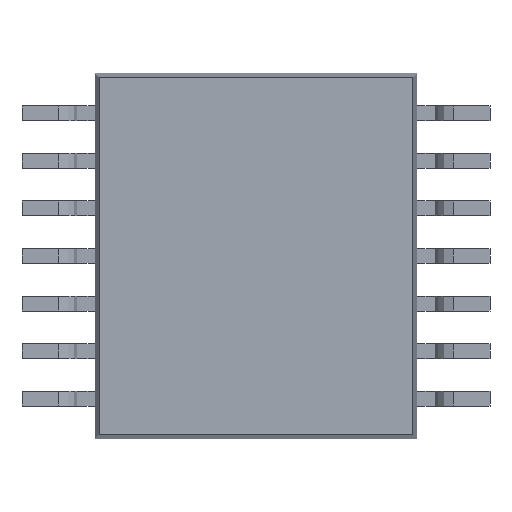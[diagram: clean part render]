
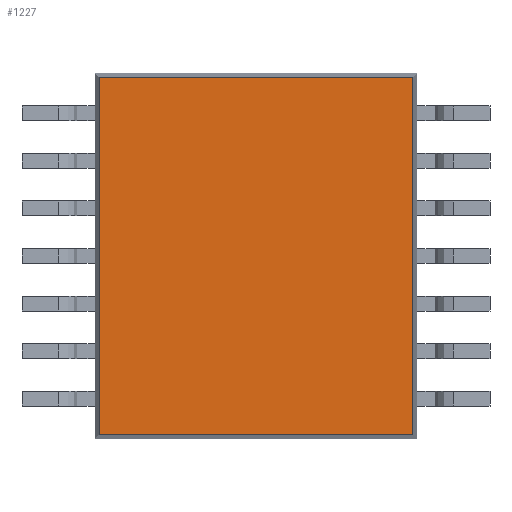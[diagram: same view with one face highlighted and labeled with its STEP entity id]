
A CAD part, front view. The second image highlights one B-rep face of the part: STEP entity #1227.
In plain terms, the highlighted planar face has unit normal (0, -1, 0).
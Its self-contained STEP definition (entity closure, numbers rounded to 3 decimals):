
#1085 = VERTEX_POINT('',#1086);
#1086 = CARTESIAN_POINT('',(2.142,0.12,2.442));
#1092 = EDGE_CURVE('',#1085,#1093,#1095,.T.);
#1093 = VERTEX_POINT('',#1094);
#1094 = CARTESIAN_POINT('',(2.142,0.12,-2.442));
#1095 = LINE('',#1096,#1097);
#1096 = CARTESIAN_POINT('',(2.142,0.12,6.815));
#1097 = VECTOR('',#1098,1.);
#1098 = DIRECTION('',(0.,0.,-1.));
#1208 = EDGE_CURVE('',#1093,#1209,#1211,.T.);
#1209 = VERTEX_POINT('',#1210);
#1210 = CARTESIAN_POINT('',(-2.142,0.12,-2.442));
#1211 = LINE('',#1212,#1213);
#1212 = CARTESIAN_POINT('',(6.815,0.12,-2.442));
#1213 = VECTOR('',#1214,1.);
#1214 = DIRECTION('',(-1.,0.,0.));
#1227 = ADVANCED_FACE('',(#1228),#1246,.F.);
#1228 = FACE_BOUND('',#1229,.F.);
#1229 = EDGE_LOOP('',(#1230,#1238,#1239,#1240));
#1230 = ORIENTED_EDGE('',*,*,#1231,.F.);
#1231 = EDGE_CURVE('',#1085,#1232,#1234,.T.);
#1232 = VERTEX_POINT('',#1233);
#1233 = CARTESIAN_POINT('',(-2.142,0.12,2.442));
#1234 = LINE('',#1235,#1236);
#1235 = CARTESIAN_POINT('',(6.815,0.12,2.442));
#1236 = VECTOR('',#1237,1.);
#1237 = DIRECTION('',(-1.,0.,0.));
#1238 = ORIENTED_EDGE('',*,*,#1092,.T.);
#1239 = ORIENTED_EDGE('',*,*,#1208,.T.);
#1240 = ORIENTED_EDGE('',*,*,#1241,.F.);
#1241 = EDGE_CURVE('',#1232,#1209,#1242,.T.);
#1242 = LINE('',#1243,#1244);
#1243 = CARTESIAN_POINT('',(-2.142,0.12,6.815));
#1244 = VECTOR('',#1245,1.);
#1245 = DIRECTION('',(0.,0.,-1.));
#1246 = PLANE('',#1247);
#1247 = AXIS2_PLACEMENT_3D('',#1248,#1249,#1250);
#1248 = CARTESIAN_POINT('',(0.,0.12,0.));
#1249 = DIRECTION('',(0.,1.,0.));
#1250 = DIRECTION('',(0.,0.,1.));
